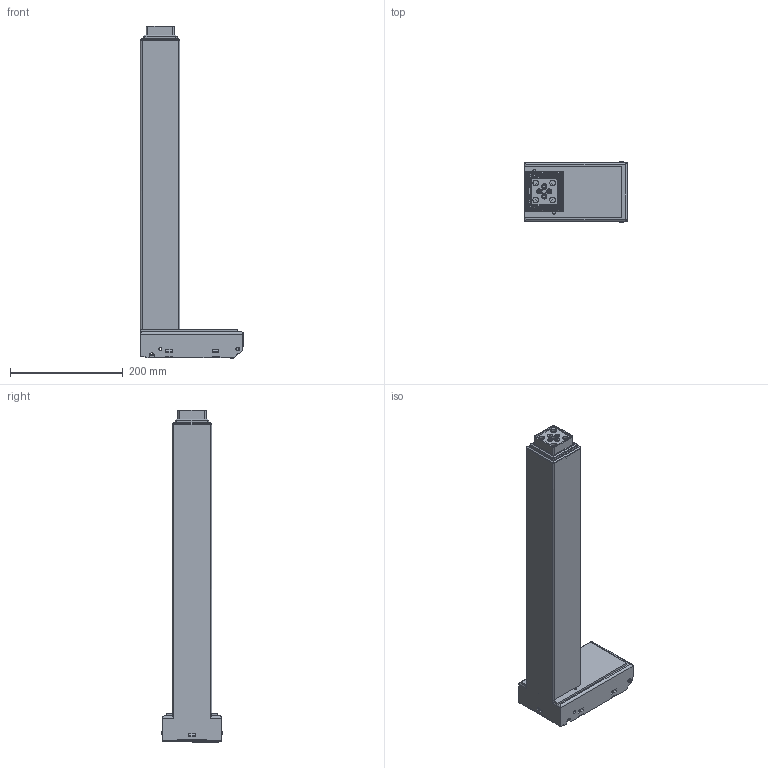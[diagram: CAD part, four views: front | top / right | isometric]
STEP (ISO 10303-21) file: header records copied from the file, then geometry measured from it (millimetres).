
FILE_DESCRIPTION (( 'STEP AP203' ), '1' );
FILE_NAME ('TL7_3D.STEP', '2020-05-21T06:31:03', ( '' ), ( '' ), 'SwSTEP 2.0', 'SolidWorks 2015', '' );
FILE_SCHEMA (( 'CONFIG_CONTROL_DESIGN' ));
Products named in the file (1): TL7_3D
Bounding box: 183.14 x 107 x 590 mm (x, y, z)
Volume: 964904.8 mm3; surface area: 854399.5 mm2
Topology: 8 solids, 8 shells, 1614 faces, 4105 edges, 2368 vertices
Faces by surface type: cylinder 711, plane 531, torus 140, bspline 131, sphere 73, cone 28
Entity records: 53286 total; most frequent: CARTESIAN_POINT 16109, ORIENTED_EDGE 7922, DIRECTION 7711, EDGE_CURVE 3961, AXIS2_PLACEMENT_3D 2770, VERTEX_POINT 2368, VECTOR 2171, LINE 2171
